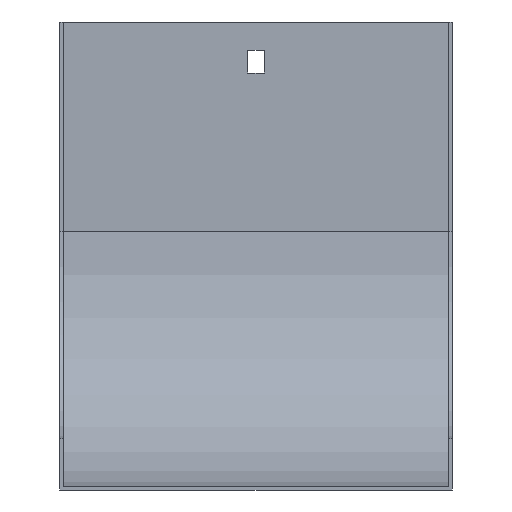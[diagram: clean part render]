
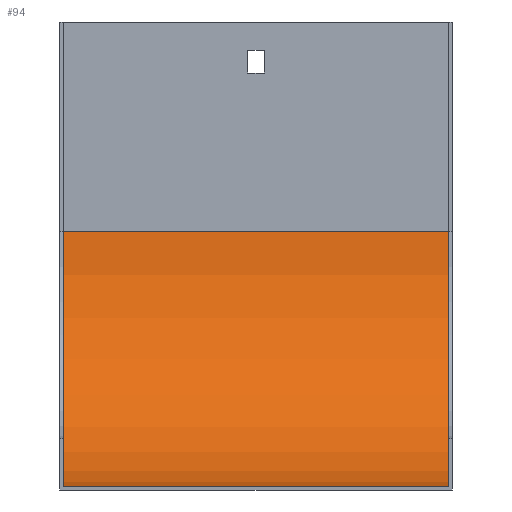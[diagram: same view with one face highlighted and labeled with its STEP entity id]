
A CAD part, front view. The second image highlights one B-rep face of the part: STEP entity #94.
In plain terms, the highlighted cylindrical face has radius 100 mm (diameter 200 mm), a partial arc.
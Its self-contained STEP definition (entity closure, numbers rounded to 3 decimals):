
#20 = CARTESIAN_POINT ( 'NONE',  ( 75.5, -1.5, -82. ) ) ;
#65 = VERTEX_POINT ( 'NONE', #583 ) ;
#93 = DIRECTION ( 'NONE',  ( 0., 0., 1. ) ) ;
#94 = ADVANCED_FACE ( 'NONE', ( #822 ), #348, .F. ) ;
#119 = AXIS2_PLACEMENT_3D ( 'NONE', #359, #503, #142 ) ;
#134 = EDGE_CURVE ( 'NONE', #585, #825, #714, .T. ) ;
#142 = DIRECTION ( 'NONE',  ( 0., 0., 1. ) ) ;
#173 = EDGE_CURVE ( 'NONE', #65, #329, #401, .T. ) ;
#193 = CARTESIAN_POINT ( 'NONE',  ( 77., -101.5, -182. ) ) ;
#209 = CARTESIAN_POINT ( 'NONE',  ( 77., -1.5, -82. ) ) ;
#257 = ORIENTED_EDGE ( 'NONE', *, *, #600, .F. ) ;
#329 = VERTEX_POINT ( 'NONE', #742 ) ;
#334 = VECTOR ( 'NONE', #803, 1000. ) ;
#335 = ORIENTED_EDGE ( 'NONE', *, *, #591, .T. ) ;
#348 = CYLINDRICAL_SURFACE ( 'NONE', #119, 100. ) ;
#359 = CARTESIAN_POINT ( 'NONE',  ( 77., -101.5, -82. ) ) ;
#384 = DIRECTION ( 'NONE',  ( 0., 0., 1. ) ) ;
#401 = CIRCLE ( 'NONE', #448, 100. ) ;
#411 = DIRECTION ( 'NONE',  ( -1., 0., 0. ) ) ;
#448 = AXIS2_PLACEMENT_3D ( 'NONE', #796, #787, #384 ) ;
#462 = VECTOR ( 'NONE', #411, 1000. ) ;
#475 = LINE ( 'NONE', #209, #462 ) ;
#485 = LINE ( 'NONE', #193, #334 ) ;
#503 = DIRECTION ( 'NONE',  ( -1., 0., 0. ) ) ;
#523 = ORIENTED_EDGE ( 'NONE', *, *, #173, .F. ) ;
#530 = CARTESIAN_POINT ( 'NONE',  ( 75.5, -101.5, -182. ) ) ;
#565 = ORIENTED_EDGE ( 'NONE', *, *, #134, .T. ) ;
#583 = CARTESIAN_POINT ( 'NONE',  ( -75.5, -101.5, -182. ) ) ;
#585 = VERTEX_POINT ( 'NONE', #530 ) ;
#591 = EDGE_CURVE ( 'NONE', #825, #329, #475, .T. ) ;
#600 = EDGE_CURVE ( 'NONE', #585, #65, #485, .T. ) ;
#611 = AXIS2_PLACEMENT_3D ( 'NONE', #686, #701, #93 ) ;
#644 = EDGE_LOOP ( 'NONE', ( #523, #257, #565, #335 ) ) ;
#686 = CARTESIAN_POINT ( 'NONE',  ( 75.5, -101.5, -82. ) ) ;
#701 = DIRECTION ( 'NONE',  ( 1., 0., 0. ) ) ;
#714 = CIRCLE ( 'NONE', #611, 100. ) ;
#742 = CARTESIAN_POINT ( 'NONE',  ( -75.5, -1.5, -82. ) ) ;
#787 = DIRECTION ( 'NONE',  ( 1., 0., 0. ) ) ;
#796 = CARTESIAN_POINT ( 'NONE',  ( -75.5, -101.5, -82. ) ) ;
#803 = DIRECTION ( 'NONE',  ( -1., 0., 0. ) ) ;
#822 = FACE_OUTER_BOUND ( 'NONE', #644, .T. ) ;
#825 = VERTEX_POINT ( 'NONE', #20 ) ;
